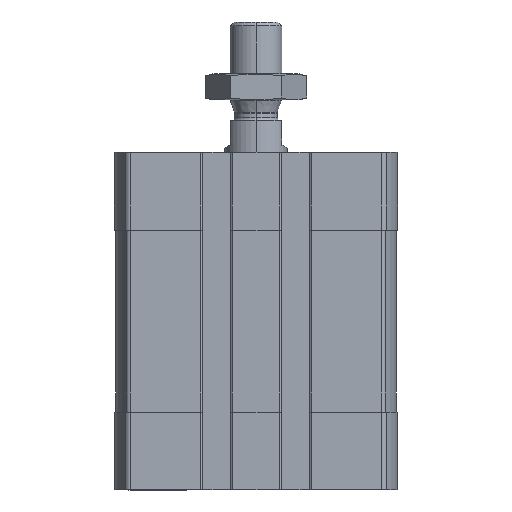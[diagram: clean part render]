
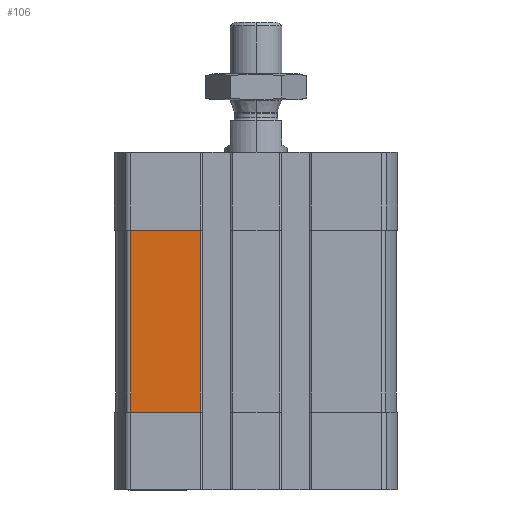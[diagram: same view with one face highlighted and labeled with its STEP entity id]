
A CAD part, left-side view. The second image highlights one B-rep face of the part: STEP entity #106.
In plain terms, the highlighted planar face has unit normal (-1, 0, 0).
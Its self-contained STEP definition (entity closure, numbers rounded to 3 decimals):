
#106 = ADVANCED_FACE ( 'NONE', ( #15001 ), #3580, .T. ) ;
#237 = CARTESIAN_POINT ( 'NONE',  ( -27., 24.093, -50. ) ) ;
#436 = CARTESIAN_POINT ( 'NONE',  ( -27., 24.093, -50. ) ) ;
#849 = ORIENTED_EDGE ( 'NONE', *, *, #4717, .T. ) ;
#929 = LINE ( 'NONE', #7384, #10233 ) ;
#1112 = DIRECTION ( 'NONE',  ( 0., 0., -1. ) ) ;
#1234 = VECTOR ( 'NONE', #2805, 1000. ) ;
#2037 = CARTESIAN_POINT ( 'NONE',  ( -27., 24.093, -50. ) ) ;
#2395 = ORIENTED_EDGE ( 'NONE', *, *, #3711, .T. ) ;
#2692 = CARTESIAN_POINT ( 'NONE',  ( -27., 10.7, -50. ) ) ;
#2774 = CARTESIAN_POINT ( 'NONE',  ( -27., 24.093, -15. ) ) ;
#2805 = DIRECTION ( 'NONE',  ( 0., -1., 0. ) ) ;
#3245 = EDGE_CURVE ( 'NONE', #3900, #8208, #4465, .T. ) ;
#3297 = EDGE_LOOP ( 'NONE', ( #4347, #2395, #849, #14147 ) ) ;
#3430 = DIRECTION ( 'NONE',  ( -1., 0., 0. ) ) ;
#3580 = PLANE ( 'NONE',  #12872 ) ;
#3711 = EDGE_CURVE ( 'NONE', #8208, #10468, #14076, .T. ) ;
#3900 = VERTEX_POINT ( 'NONE', #2037 ) ;
#4347 = ORIENTED_EDGE ( 'NONE', *, *, #3245, .T. ) ;
#4448 = DIRECTION ( 'NONE',  ( 0., 0., 1. ) ) ;
#4465 = LINE ( 'NONE', #237, #1234 ) ;
#4717 = EDGE_CURVE ( 'NONE', #10468, #7098, #15194, .T. ) ;
#5571 = DIRECTION ( 'NONE',  ( 0., 1., 0. ) ) ;
#7098 = VERTEX_POINT ( 'NONE', #2774 ) ;
#7384 = CARTESIAN_POINT ( 'NONE',  ( -27., 24.093, -50. ) ) ;
#8208 = VERTEX_POINT ( 'NONE', #2692 ) ;
#8557 = CARTESIAN_POINT ( 'NONE',  ( -27., 10.7, -15. ) ) ;
#10233 = VECTOR ( 'NONE', #1112, 1000. ) ;
#10468 = VERTEX_POINT ( 'NONE', #8557 ) ;
#10808 = VECTOR ( 'NONE', #4448, 1000. ) ;
#11591 = VECTOR ( 'NONE', #5571, 1000. ) ;
#12675 = DIRECTION ( 'NONE',  ( 0., 0., 1. ) ) ;
#12872 = AXIS2_PLACEMENT_3D ( 'NONE', #436, #3430, #12675 ) ;
#13081 = EDGE_CURVE ( 'NONE', #7098, #3900, #929, .T. ) ;
#13297 = CARTESIAN_POINT ( 'NONE',  ( -27., 0., -15. ) ) ;
#14076 = LINE ( 'NONE', #16066, #10808 ) ;
#14147 = ORIENTED_EDGE ( 'NONE', *, *, #13081, .T. ) ;
#15001 = FACE_OUTER_BOUND ( 'NONE', #3297, .T. ) ;
#15194 = LINE ( 'NONE', #13297, #11591 ) ;
#16066 = CARTESIAN_POINT ( 'NONE',  ( -27., 10.7, -50. ) ) ;
